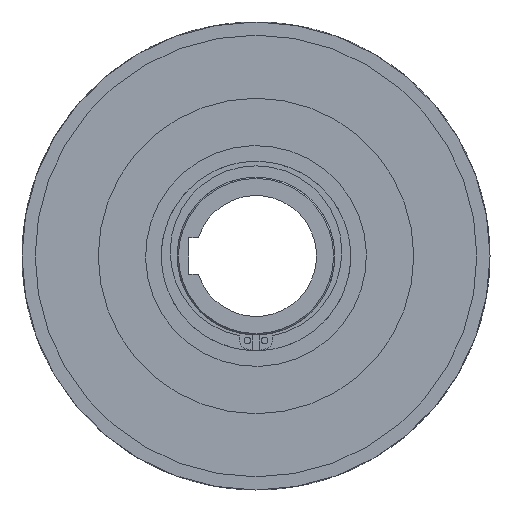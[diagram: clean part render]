
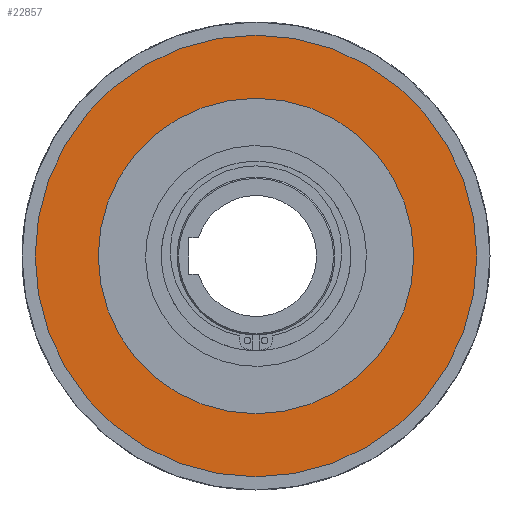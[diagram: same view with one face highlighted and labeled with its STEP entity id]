
A CAD part, left-side view. The second image highlights one B-rep face of the part: STEP entity #22857.
In plain terms, the highlighted planar face has unit normal (-1, 0, 0).
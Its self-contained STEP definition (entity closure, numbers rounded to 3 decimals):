
#370=FACE_BOUND('',#4473,.T.);
#2776=PLANE('',#24368);
#3233=FACE_OUTER_BOUND('',#4472,.T.);
#4472=EDGE_LOOP('',(#15800));
#4473=EDGE_LOOP('',(#15801));
#6068=CIRCLE('',#24363,60.);
#6071=CIRCLE('',#24367,84.);
#8926=VERTEX_POINT('',#63975);
#8929=VERTEX_POINT('',#63983);
#11565=EDGE_CURVE('',#8926,#8926,#6068,.T.);
#11570=EDGE_CURVE('',#8929,#8929,#6071,.T.);
#15800=ORIENTED_EDGE('',*,*,#11570,.T.);
#15801=ORIENTED_EDGE('',*,*,#11565,.T.);
#22857=ADVANCED_FACE('',(#3233,#370),#2776,.T.);
#24363=AXIS2_PLACEMENT_3D('',#63976,#27852,#27853);
#24367=AXIS2_PLACEMENT_3D('',#63985,#27862,#27863);
#24368=AXIS2_PLACEMENT_3D('',#63986,#27864,#27865);
#27852=DIRECTION('center_axis',(1.,0.,0.));
#27853=DIRECTION('ref_axis',(0.,0.,
1.));
#27862=DIRECTION('center_axis',(-1.,0.,0.));
#27863=DIRECTION('ref_axis',(0.,0.,
1.));
#27864=DIRECTION('center_axis',(-1.,0.,0.));
#27865=DIRECTION('ref_axis',(0.,0.,
1.));
#63975=CARTESIAN_POINT('',(-47.,0.,-60.));
#63976=CARTESIAN_POINT('Origin',(-47.,0.,0.));
#63983=CARTESIAN_POINT('',(-47.,0.,-84.));
#63985=CARTESIAN_POINT('Origin',(-47.,0.,0.));
#63986=CARTESIAN_POINT('Origin',(-47.,0.,0.));
